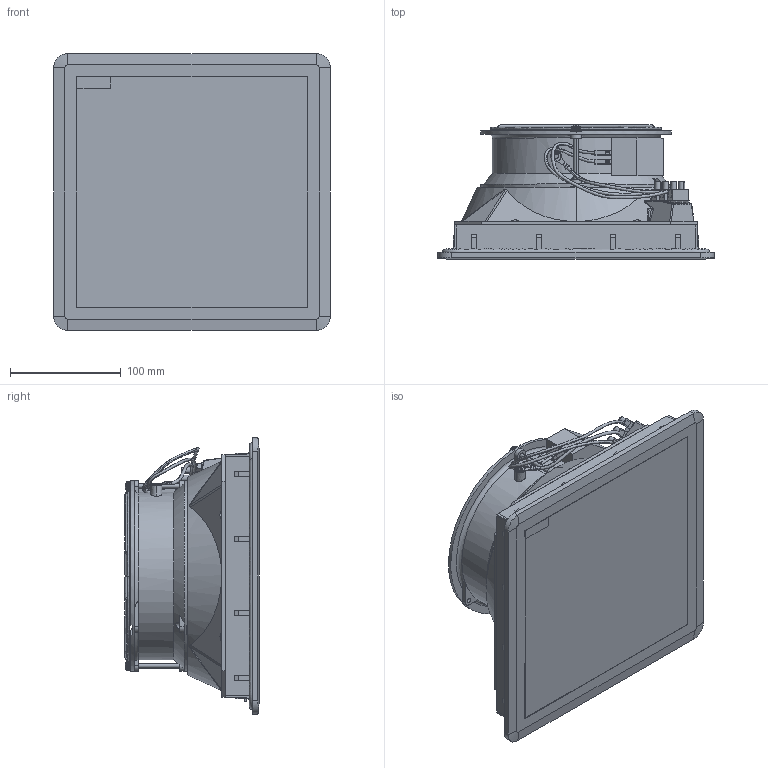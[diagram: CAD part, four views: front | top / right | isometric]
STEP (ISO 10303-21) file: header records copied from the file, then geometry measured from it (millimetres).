
FILE_DESCRIPTION(/* description */ (''),/* implementation_level */ '2;1');
FILE_NAME(/* name */ 'FPD318~1',/* time_stamp */ '2019-06-27T14:36:19+02:00',/* author */ (''),/* organization */ (''),/* preprocessor_version */ 'ST-DEVELOPER v14',/* originating_system */ '',/* authorisation */ '');
FILE_SCHEMA (('CONFIG_CONTROL_DESIGN'));
Length unit declared in the file: millimetre
Products named in the file (1): Document
Bounding box: 249.31 x 120.92 x 249.31 mm (x, y, z)
Volume: 10171.8 mm3; surface area: 246414.6 mm2
Topology: 8 solids, 69 shells, 720 faces, 1991 edges, 1375 vertices
Faces by surface type: plane 393, bspline 327
Entity records: 55892 total; most frequent: CARTESIAN_POINT 44202, ORIENTED_EDGE 3656, EDGE_CURVE 1991, VERTEX_POINT 1375, B_SPLINE_CURVE_WITH_KNOTS 940, EDGE_LOOP 795, ADVANCED_FACE 720, FACE_OUTER_BOUND 720
